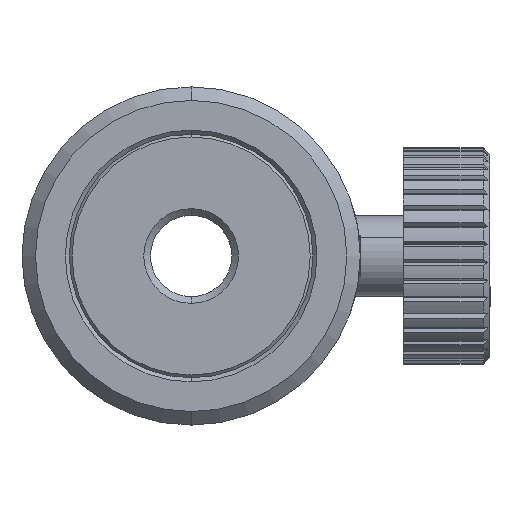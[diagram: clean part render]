
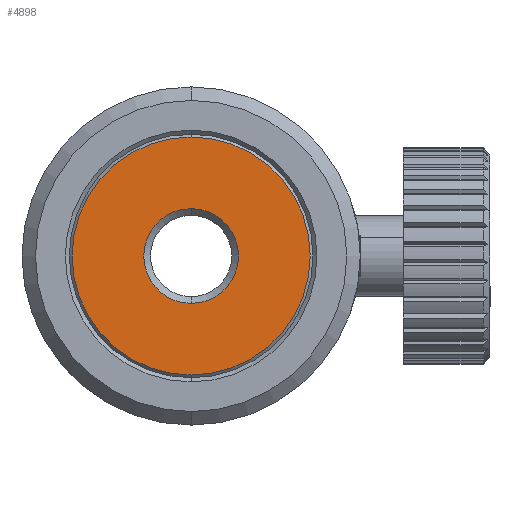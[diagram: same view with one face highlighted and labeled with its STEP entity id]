
A CAD part, front view. The second image highlights one B-rep face of the part: STEP entity #4898.
In plain terms, the highlighted planar face has unit normal (0, -1, 0).
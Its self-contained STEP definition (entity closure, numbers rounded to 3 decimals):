
#1426 = VERTEX_POINT ( 'NONE', #3549 ) ;
#1438 = VERTEX_POINT ( 'NONE', #3581 ) ;
#1441 = VERTEX_POINT ( 'NONE', #3592 ) ;
#1457 = VERTEX_POINT ( 'NONE', #3595 ) ;
#1637 = ORIENTED_EDGE ( 'NONE', *, *, #5783, .T. ) ;
#1641 = ORIENTED_EDGE ( 'NONE', *, *, #5800, .T. ) ;
#1655 = ORIENTED_EDGE ( 'NONE', *, *, #5775, .T. ) ;
#1666 = ORIENTED_EDGE ( 'NONE', *, *, #5766, .T. ) ;
#3549 = CARTESIAN_POINT ( 'NONE',  ( -6.15, -6.612, 3.5 ) ) ;
#3581 = CARTESIAN_POINT ( 'NONE',  ( -6.15, -6.612, -3.5 ) ) ;
#3592 = CARTESIAN_POINT ( 'NONE',  ( -6.15, -6.612, 8.8 ) ) ;
#3595 = CARTESIAN_POINT ( 'NONE',  ( -6.15, -6.612, -8.8 ) ) ;
#3787 = EDGE_LOOP ( 'NONE', ( #1666, #1641 ) ) ;
#3821 = EDGE_LOOP ( 'NONE', ( #1655, #1637 ) ) ;
#4898 = ADVANCED_FACE ( 'NONE', ( #5439, #5456 ), #8533, .F. ) ;
#5439 = FACE_BOUND ( 'NONE', #3787, .T. ) ;
#5456 = FACE_OUTER_BOUND ( 'NONE', #3821, .T. ) ;
#5467 = CIRCLE ( 'NONE', #6805, 8.8 ) ;
#5475 = CIRCLE ( 'NONE', #6775, 3.5 ) ;
#5516 = CIRCLE ( 'NONE', #6794, 8.8 ) ;
#5577 = CIRCLE ( 'NONE', #6802, 3.5 ) ;
#5766 = EDGE_CURVE ( 'NONE', #1438, #1426, #5475, .T. ) ;
#5775 = EDGE_CURVE ( 'NONE', #1441, #1457, #5516, .T. ) ;
#5783 = EDGE_CURVE ( 'NONE', #1457, #1441, #5467, .T. ) ;
#5800 = EDGE_CURVE ( 'NONE', #1426, #1438, #5577, .T. ) ;
#6733 = AXIS2_PLACEMENT_3D ( 'NONE', #8642, #8645, #8720 ) ;
#6775 = AXIS2_PLACEMENT_3D ( 'NONE', #8376, #8326, #8354 ) ;
#6794 = AXIS2_PLACEMENT_3D ( 'NONE', #8393, #8443, #8432 ) ;
#6802 = AXIS2_PLACEMENT_3D ( 'NONE', #8576, #8567, #8630 ) ;
#6805 = AXIS2_PLACEMENT_3D ( 'NONE', #8438, #8447, #8462 ) ;
#8326 = DIRECTION ( 'NONE',  ( 0., 1., 0. ) ) ;
#8354 = DIRECTION ( 'NONE',  ( 0., 0., 1. ) ) ;
#8376 = CARTESIAN_POINT ( 'NONE',  ( -6.15, -6.612, 0. ) ) ;
#8393 = CARTESIAN_POINT ( 'NONE',  ( -6.15, -6.612, 0. ) ) ;
#8432 = DIRECTION ( 'NONE',  ( 0., 0., 1. ) ) ;
#8438 = CARTESIAN_POINT ( 'NONE',  ( -6.15, -6.612, 0. ) ) ;
#8443 = DIRECTION ( 'NONE',  ( 0., -1., 0. ) ) ;
#8447 = DIRECTION ( 'NONE',  ( 0., -1., 0. ) ) ;
#8462 = DIRECTION ( 'NONE',  ( 0., 0., 1. ) ) ;
#8533 = PLANE ( 'NONE',  #6733 ) ;
#8567 = DIRECTION ( 'NONE',  ( 0., 1., 0. ) ) ;
#8576 = CARTESIAN_POINT ( 'NONE',  ( -6.15, -6.612, 0. ) ) ;
#8630 = DIRECTION ( 'NONE',  ( 0., 0., 1. ) ) ;
#8642 = CARTESIAN_POINT ( 'NONE',  ( -6.15, -6.612, 0. ) ) ;
#8645 = DIRECTION ( 'NONE',  ( 0., 1., 0. ) ) ;
#8720 = DIRECTION ( 'NONE',  ( 0., 0., 1. ) ) ;
